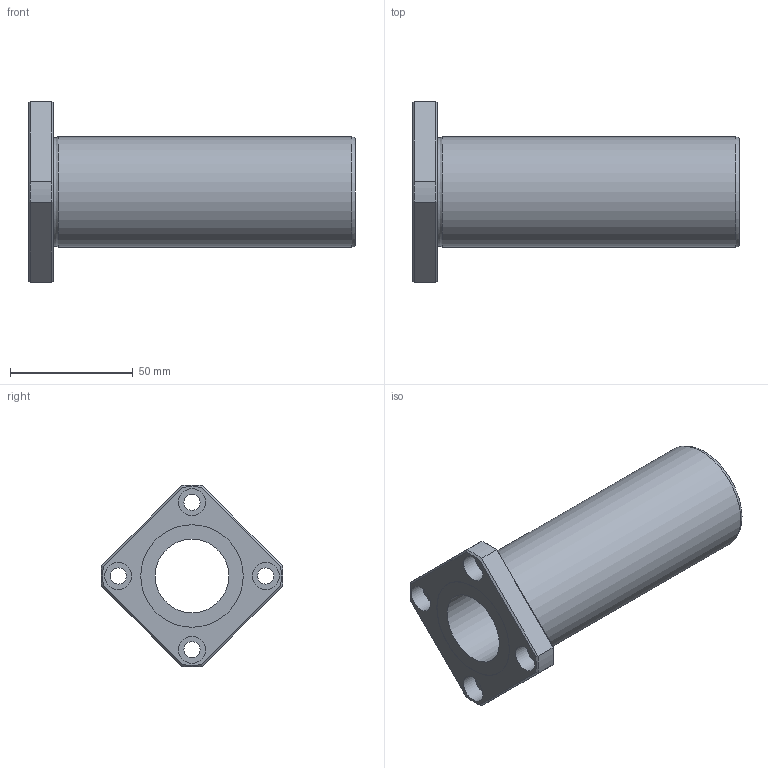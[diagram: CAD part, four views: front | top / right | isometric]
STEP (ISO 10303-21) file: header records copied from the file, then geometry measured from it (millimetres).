
FILE_DESCRIPTION((''),'2;1');
FILE_NAME('D:\製品 (図面)\カタログ用3D\メンテナンスフリー関連\STEP形式\LFDK-MF\LFDK30MF.stp','2010-06-01T15:44:27',('Tsuchiya'),(''),'Autodesk Inventor 10','Autodesk Inventor 10','');
FILE_SCHEMA(('AUTOMOTIVE_DESIGN { 1 0 10303 214 1 1 1 1 }'));
Length unit declared in the file: millimetre
Products named in the file (1): LFDK30MF
Bounding box: 133 x 73.95 x 73.95 mm (x, y, z)
Volume: 131219.3 mm3; surface area: 38011.8 mm2
Topology: 1 solids, 1 shells, 47 faces, 96 edges, 58 vertices
Faces by surface type: plane 21, cylinder 16, cone 8, torus 1, bspline 1
Full cylindrical faces by diameter (mm): 6.6 x4, 11 x4, 30 x1, 41.7 x2, 45 x1
Entity records: 1275 total; most frequent: CARTESIAN_POINT 298, DIRECTION 202, ORIENTED_EDGE 164, AXIS2_PLACEMENT_3D 89, EDGE_CURVE 82, EDGE_LOOP 78, VERTEX_POINT 58, FACE_OUTER_BOUND 47
